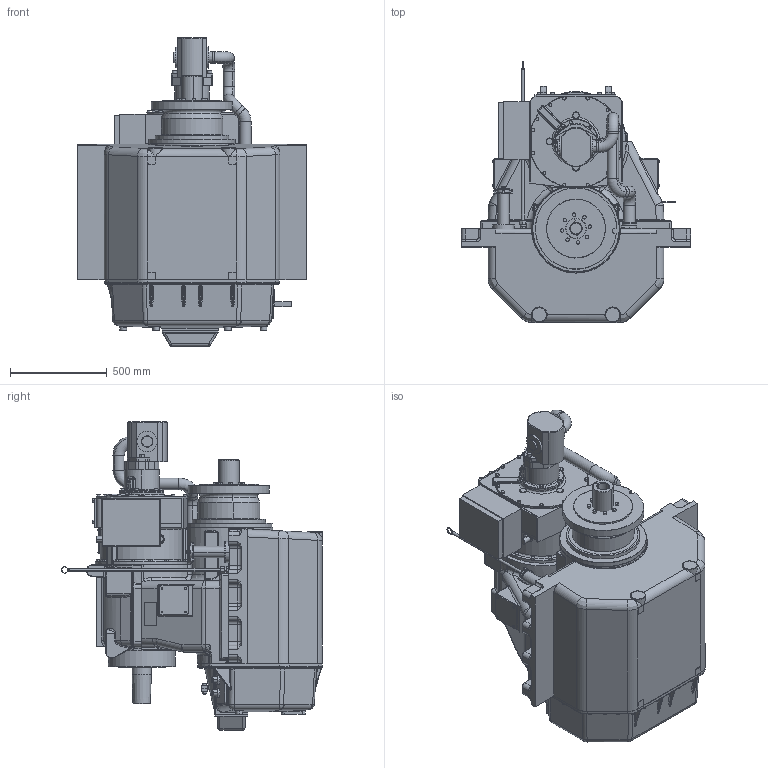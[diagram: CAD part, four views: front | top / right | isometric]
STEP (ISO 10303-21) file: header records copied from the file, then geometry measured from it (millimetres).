
FILE_DESCRIPTION((''),'2;1');
FILE_NAME('450HS','2025-04-11T09:20:23',('hve'),('ME Production'),'CREO PARAMETRIC BY PTC INC, 2024401','CREO PARAMETRIC BY PTC INC, 2024401','');
FILE_SCHEMA(('CONFIG_CONTROL_DESIGN'));
Products named in the file (1): 450HS
Bounding box: 1184.01 x 1349.95 x 1592 mm (x, y, z)
Surface area: 9951024.6 mm2 (no closed solid volume)
Topology: 0 solids, 246 shells, 2545 faces, 7085 edges, 4611 vertices
Faces by surface type: cylinder 954, plane 805, bspline 401, torus 201, extrusion 65, sphere 61, cone 58
Entity records: 102288 total; most frequent: CARTESIAN_POINT 41348, DIRECTION 12379, ORIENTED_EDGE 12020, EDGE_CURVE 7084, AXIS2_PLACEMENT_3D 4669, VERTEX_POINT 4611, VECTOR 3041, LINE 2976
